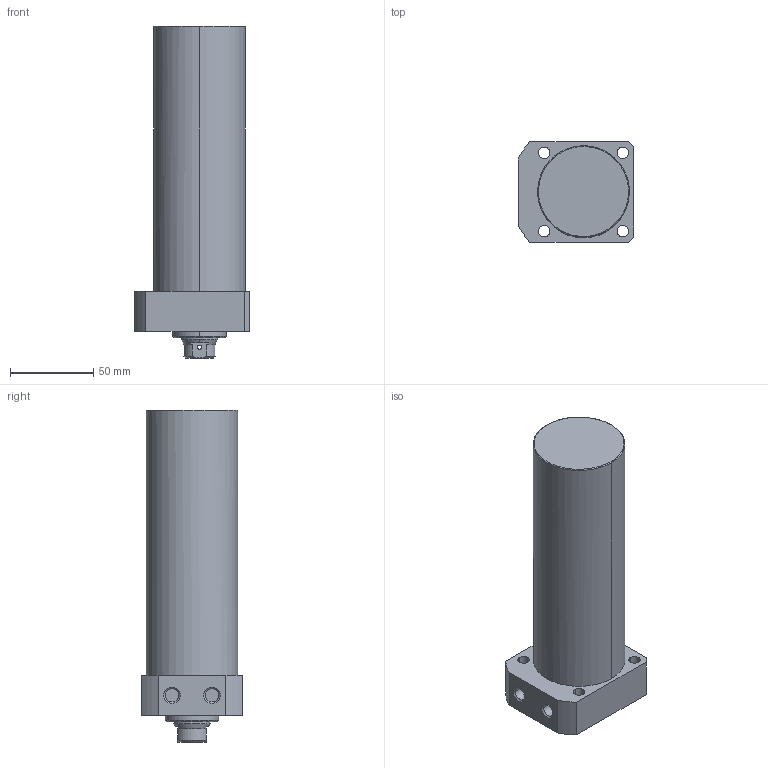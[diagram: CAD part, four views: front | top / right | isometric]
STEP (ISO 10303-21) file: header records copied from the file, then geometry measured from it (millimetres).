
FILE_DESCRIPTION((' '),'2;1');
FILE_NAME( 'TLLR-055CB-130.STEP.stp', '2025-10-24T16:34:46', (' '), ('--- Datakit www.datakit.com---'), ' Datakit CrossCadWare V2024.1 Dec 21 2023', 'Mastercam 2025', ' ');
FILE_SCHEMA(('AUTOMOTIVE_DESIGN { 1 0 10303 214 1 1 1 1 }'));
Length unit declared in the file: millimetre
Products named in the file (1): TLLR-055CB-130
Bounding box: 69 x 60 x 199 mm (x, y, z)
Volume: 475342.2 mm3; surface area: 45808.7 mm2
Topology: 1 solids, 1 shells, 67 faces, 197 edges, 136 vertices
Faces by surface type: cylinder 32, plane 19, cone 14, torus 2
Entity records: 3058 total; most frequent: CARTESIAN_POINT 1139, DIRECTION 426, ORIENTED_EDGE 390, EDGE_CURVE 195, AXIS2_PLACEMENT_3D 179, VERTEX_POINT 136, CIRCLE 111, EDGE_LOOP 85
